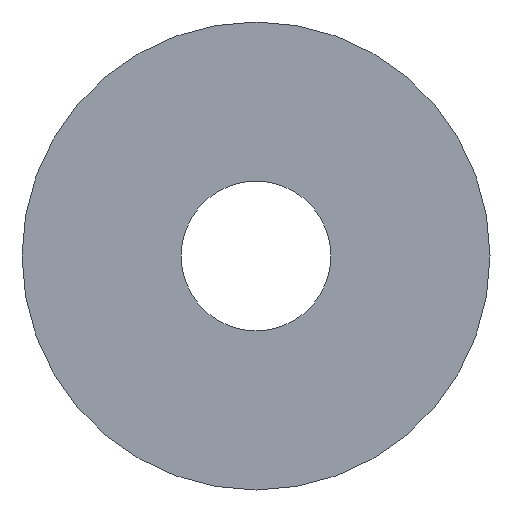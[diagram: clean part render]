
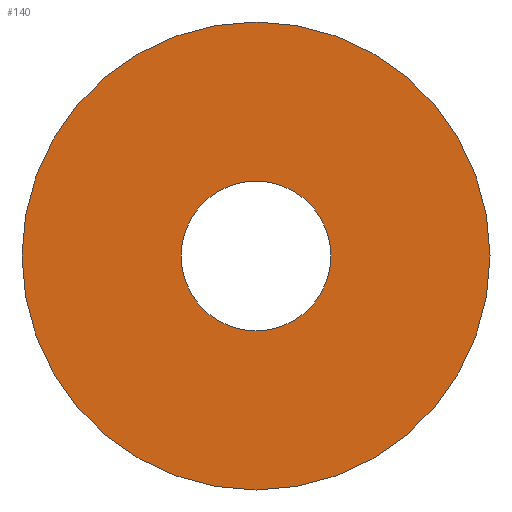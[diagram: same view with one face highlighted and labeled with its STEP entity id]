
A CAD part, left-side view. The second image highlights one B-rep face of the part: STEP entity #140.
In plain terms, the highlighted planar face has unit normal (-1, 0, 0).
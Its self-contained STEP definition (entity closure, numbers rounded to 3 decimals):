
#31 = CYLINDRICAL_SURFACE('',#32,25.);
#32 = AXIS2_PLACEMENT_3D('',#33,#34,#35);
#33 = CARTESIAN_POINT('',(-109.,0.,0.));
#34 = DIRECTION('',(1.,0.,0.));
#35 = DIRECTION('',(-0.,0.,1.));
#56 = VERTEX_POINT('',#57);
#57 = CARTESIAN_POINT('',(-109.,0.,25.));
#78 = EDGE_CURVE('',#56,#56,#79,.T.);
#79 = SURFACE_CURVE('',#80,(#85,#92),.PCURVE_S1.);
#80 = CIRCLE('',#81,25.);
#81 = AXIS2_PLACEMENT_3D('',#82,#83,#84);
#82 = CARTESIAN_POINT('',(-109.,0.,0.));
#83 = DIRECTION('',(1.,0.,0.));
#84 = DIRECTION('',(-0.,0.,1.));
#85 = PCURVE('',#31,#86);
#86 = DEFINITIONAL_REPRESENTATION('',(#87),#91);
#87 = LINE('',#88,#89);
#88 = CARTESIAN_POINT('',(0.,0.));
#89 = VECTOR('',#90,1.);
#90 = DIRECTION('',(1.,0.));
#91 = ( GEOMETRIC_REPRESENTATION_CONTEXT(2) 
PARAMETRIC_REPRESENTATION_CONTEXT() REPRESENTATION_CONTEXT('2D SPACE',''
  ) );
#92 = PCURVE('',#93,#98);
#93 = PLANE('',#94);
#94 = AXIS2_PLACEMENT_3D('',#95,#96,#97);
#95 = CARTESIAN_POINT('',(-109.,0.,0.));
#96 = DIRECTION('',(1.,0.,0.));
#97 = DIRECTION('',(-0.,0.,1.));
#98 = DEFINITIONAL_REPRESENTATION('',(#99),#103);
#99 = CIRCLE('',#100,25.);
#100 = AXIS2_PLACEMENT_2D('',#101,#102);
#101 = CARTESIAN_POINT('',(0.,0.));
#102 = DIRECTION('',(1.,0.));
#103 = ( GEOMETRIC_REPRESENTATION_CONTEXT(2) 
PARAMETRIC_REPRESENTATION_CONTEXT() REPRESENTATION_CONTEXT('2D SPACE',''
  ) );
#129 = CYLINDRICAL_SURFACE('',#130,8.);
#130 = AXIS2_PLACEMENT_3D('',#131,#132,#133);
#131 = CARTESIAN_POINT('',(-110.,0.,0.));
#132 = DIRECTION('',(1.,0.,0.));
#133 = DIRECTION('',(-0.,0.,1.));
#140 = ADVANCED_FACE('',(#141,#144),#93,.F.);
#141 = FACE_BOUND('',#142,.F.);
#142 = EDGE_LOOP('',(#143));
#143 = ORIENTED_EDGE('',*,*,#78,.T.);
#144 = FACE_BOUND('',#145,.F.);
#145 = EDGE_LOOP('',(#146));
#146 = ORIENTED_EDGE('',*,*,#147,.F.);
#147 = EDGE_CURVE('',#148,#148,#150,.T.);
#148 = VERTEX_POINT('',#149);
#149 = CARTESIAN_POINT('',(-109.,0.,8.));
#150 = SURFACE_CURVE('',#151,(#156,#163),.PCURVE_S1.);
#151 = CIRCLE('',#152,8.);
#152 = AXIS2_PLACEMENT_3D('',#153,#154,#155);
#153 = CARTESIAN_POINT('',(-109.,0.,0.));
#154 = DIRECTION('',(1.,0.,0.));
#155 = DIRECTION('',(-0.,0.,1.));
#156 = PCURVE('',#93,#157);
#157 = DEFINITIONAL_REPRESENTATION('',(#158),#162);
#158 = CIRCLE('',#159,8.);
#159 = AXIS2_PLACEMENT_2D('',#160,#161);
#160 = CARTESIAN_POINT('',(0.,0.));
#161 = DIRECTION('',(1.,0.));
#162 = ( GEOMETRIC_REPRESENTATION_CONTEXT(2) 
PARAMETRIC_REPRESENTATION_CONTEXT() REPRESENTATION_CONTEXT('2D SPACE',''
  ) );
#163 = PCURVE('',#129,#164);
#164 = DEFINITIONAL_REPRESENTATION('',(#165),#169);
#165 = LINE('',#166,#167);
#166 = CARTESIAN_POINT('',(0.,1.));
#167 = VECTOR('',#168,1.);
#168 = DIRECTION('',(1.,0.));
#169 = ( GEOMETRIC_REPRESENTATION_CONTEXT(2) 
PARAMETRIC_REPRESENTATION_CONTEXT() REPRESENTATION_CONTEXT('2D SPACE',''
  ) );
